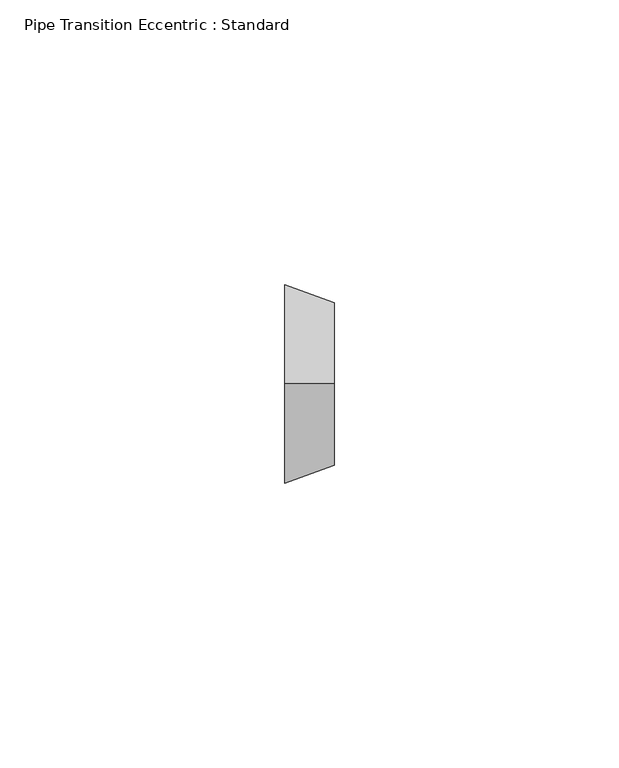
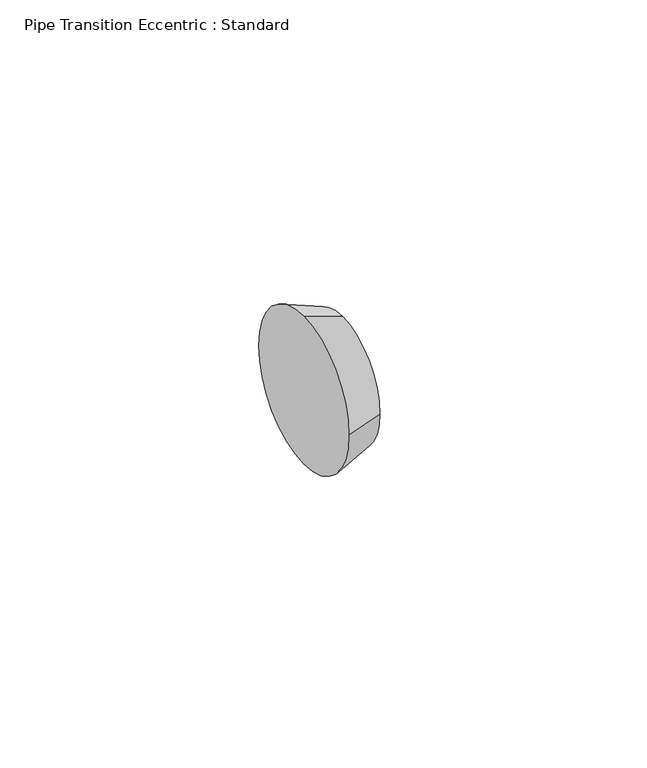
"""IFC4 building model written with IfcOpenShell, lengths in millimetres: pipe fitting geometry, Pipe Transition Eccentric : Standard."""

import ifcopenshell
import ifcopenshell.guid

model = None  # the IFC model being written
_history = None  # IfcOwnerHistory: only IFC2X3 demands one
_inside = {}  # id of a spatial element -> (the spatial element, [elements in it])
_under = {}  # id of a project, library or spatial element -> (it, [spatial elements below it])
_declared = {}  # id of a project -> (the project, [libraries it declares])
_typed = {}  # id of a type object -> (the type object, [elements of that type])
_made_of = {}  # id of a material, layer set ... -> (it, [elements and type objects made of it])


def new_model(schema):
    """Start an empty IFC model of exactly this schema.

    Asked for "IFC4X3", IfcOpenShell would pick the latest addendum, in which some entities
    have other attributes; the version numbers below select the first issue.
    IFC2X3 requires an IfcOwnerHistory on every rooted entity: one is made here for all.
    """
    global model, _history
    if schema == "IFC4X3":
        model = ifcopenshell.file(schema_version=(4, 3, 0, 0))
    else:
        model = ifcopenshell.file(schema=schema)
    _inside.clear()
    _under.clear()
    _declared.clear()
    _typed.clear()
    _made_of.clear()
    _history = None
    if model.schema == "IFC2X3":
        org = make("IfcOrganization", Name="unknown")
        user = make(
            "IfcPersonAndOrganization",
            ThePerson=make("IfcPerson", FamilyName="unknown"),
            TheOrganization=org,
        )
        app = make(
            "IfcApplication",
            ApplicationDeveloper=org,
            Version="unknown",
            ApplicationFullName="unknown",
            ApplicationIdentifier="unknown",
        )
        _history = make(
            "IfcOwnerHistory",
            OwningUser=user,
            OwningApplication=app,
            ChangeAction="ADDED",
            CreationDate=0,
        )
    return model


def make(cls, **values):
    """One entity of the class cls with the attributes given. An attribute that is None is left unset."""
    return model.create_entity(
        cls, **{name: value for name, value in values.items() if value is not None}
    )


def rooted(cls, **values):
    """An entity with a GlobalId (a new one), such as an element, a storey or a relation."""
    return make(cls, GlobalId=ifcopenshell.guid.new(), OwnerHistory=_history, **values)


def si_unit(unit_type, name, prefix=None):
    """IfcSIUnit, for example si_unit("LENGTHUNIT", "METRE", prefix="MILLI")."""
    return make("IfcSIUnit", UnitType=unit_type, Prefix=prefix, Name=name)


def assignment(units):
    """IfcUnitAssignment: the units of a project."""
    return None if units is None else make("IfcUnitAssignment", Units=units)


def point(xyz):
    """IfcCartesianPoint."""
    return None if xyz is None else make("IfcCartesianPoint", Coordinates=xyz)


def direction(xyz):
    """IfcDirection."""
    return None if xyz is None else make("IfcDirection", DirectionRatios=xyz)


def frame(location, z_axis=None, x_axis=None):
    """IfcAxis2Placement3D, a coordinate frame: its origin and axes. An axis left out is left unset."""
    return make(
        "IfcAxis2Placement3D",
        Location=point(location),
        Axis=direction(z_axis),
        RefDirection=direction(x_axis),
    )


def origin():
    """The frame at (0, 0, 0) with its axes left unset."""
    return frame((0.0, 0.0, 0.0))


def place(relative_to, where):
    """IfcLocalPlacement: puts the frame where relative to a parent placement (None: the world)."""
    return make(
        "IfcLocalPlacement", PlacementRelTo=relative_to, RelativePlacement=where
    )


def context(
    kind, dimensions, precision=None, world=None, true_north=None, identifier=None
):
    """IfcGeometricRepresentationContext, for example the 3D "Model" context."""
    return make(
        "IfcGeometricRepresentationContext",
        ContextIdentifier=identifier,
        ContextType=kind,
        CoordinateSpaceDimension=dimensions,
        Precision=precision,
        WorldCoordinateSystem=world,
        TrueNorth=true_north,
    )


def project(units=None, contexts=None):
    """IfcProject with its units and contexts."""
    return rooted(
        "IfcProject",
        Name="project",
        RepresentationContexts=contexts,
        UnitsInContext=assignment(units),
    )


def spatial(cls, under=None, at=None, **own):
    """A site, building, storey or space (cls), placed at a placement, below another one or the project."""
    s = rooted(cls, ObjectPlacement=at, **own)
    if under is not None:
        _under.setdefault(under.id(), (under, []))[1].append(s)
    return s


def polyline(points):
    """IfcPolyline through the points."""
    return make("IfcPolyline", Points=[point(p) for p in points])


def circle_curve(where, radius):
    """IfcCircle in the frame where."""
    return make("IfcCircle", Position=where, Radius=radius)


def shape(context_of_items, identifier, shape_type, items):
    """IfcShapeRepresentation: the items that make up one representation, for example the "Body"."""
    return make(
        "IfcShapeRepresentation",
        ContextOfItems=context_of_items,
        RepresentationIdentifier=identifier,
        RepresentationType=shape_type,
        Items=items,
    )


def source(mapping_origin, context_of_items, identifier, shape_type, items):
    """IfcRepresentationMap: a shape defined once, which mapped items show again and again."""
    return make(
        "IfcRepresentationMap",
        MappingOrigin=mapping_origin,
        MappedRepresentation=shape(context_of_items, identifier, shape_type, items),
    )


def transform(
    local_origin,
    x_axis=None,
    y_axis=None,
    z_axis=None,
    scale=None,
    scale2=None,
    scale3=None,
    uniform=True,
):
    """IfcCartesianTransformationOperator3D, or its non-uniform kind. x_axis, y_axis, z_axis: its Axis1, 2, 3."""
    if uniform:
        return make(
            "IfcCartesianTransformationOperator3D",
            Axis1=direction(x_axis),
            Axis2=direction(y_axis),
            LocalOrigin=point(local_origin),
            Scale=scale,
            Axis3=direction(z_axis),
        )
    return make(
        "IfcCartesianTransformationOperator3DnonUniform",
        Axis1=direction(x_axis),
        Axis2=direction(y_axis),
        LocalOrigin=point(local_origin),
        Scale=scale,
        Axis3=direction(z_axis),
        Scale2=scale2,
        Scale3=scale3,
    )


def mapped(mapping_source, mapping_target):
    """IfcMappedItem: shows the shape of a source again, moved by a transform."""
    return make(
        "IfcMappedItem", MappingSource=mapping_source, MappingTarget=mapping_target
    )


def made_of(thing, what):
    """Note that an element or type object is made of a material, layer set ...; save() writes the relation."""
    if what is not None:
        _made_of.setdefault(what.id(), (what, []))[1].append(thing)
    return thing


def element(
    cls,
    number,
    at=None,
    inside=None,
    cuts=None,
    type_object=None,
    material=None,
    context=None,
    identifier="Body",
    shape_type=None,
    held_by="IfcProductDefinitionShape",
    body=None,
    shapes=None,
    **own,
):
    """One element of the class cls, such as IfcWall. Its Tag is "e" and its number.

    at: its placement. inside: the storey or other place that contains it. cuts: it is an
    opening in that element (IfcRelVoidsElement). A single representation is given by context,
    identifier, shape_type and body (its items); several are given by shapes. held_by: the class
    of the entity that holds the representations. save() writes the other relations.
    """
    e = rooted(cls, Tag="e%d" % number, ObjectPlacement=at, **own)
    if body is not None:
        shapes = [shape(context, identifier, shape_type, body)]
    if shapes is not None:
        e.Representation = make(held_by, Representations=shapes)
    if inside is not None:
        _inside.setdefault(inside.id(), (inside, []))[1].append(e)
    if cuts is not None:
        rooted(
            "IfcRelVoidsElement", RelatingBuildingElement=cuts, RelatedOpeningElement=e
        )
    if type_object is not None:
        _typed.setdefault(type_object.id(), (type_object, []))[1].append(e)
    return made_of(e, material)


def aggregate(whole, parts):
    """IfcRelAggregates: a whole, such as a stair, and the parts it consists of."""
    return rooted("IfcRelAggregates", RelatingObject=whole, RelatedObjects=parts)


def save(model, path):
    """Write the relations noted so far, then the file.

    IfcRelAggregates (storeys below a building ...), IfcRelContainedInSpatialStructure (elements
    in a storey), IfcRelDefinesByType, IfcRelAssociatesMaterial and IfcRelDeclares: one each for
    every whole, place, type object, material and project.
    """
    for whole, parts in _under.values():
        aggregate(whole, parts)
    for where, things in _inside.values():
        rooted(
            "IfcRelContainedInSpatialStructure",
            RelatedElements=things,
            RelatingStructure=where,
        )
    for kind, things in _typed.values():
        rooted("IfcRelDefinesByType", RelatedObjects=things, RelatingType=kind)
    for what, things in _made_of.values():
        rooted("IfcRelAssociatesMaterial", RelatedObjects=things, RelatingMaterial=what)
    for by, libraries in _declared.values():
        rooted("IfcRelDeclares", RelatingContext=by, RelatedDefinitions=libraries)
    model.write(path)


def plane_surface(at):
    """IfcPlane: the flat surface through the origin of the frame at, square to its z axis."""
    return make("IfcPlane", Position=at)


def revolved_surface(curve, axis_point, axis_direction):
    """IfcSurfaceOfRevolution: the curve turned about the line through axis_point along axis_direction."""
    return make(
        "IfcSurfaceOfRevolution",
        SweptCurve=make("IfcArbitraryOpenProfileDef", ProfileType="CURVE", Curve=curve),
        AxisPosition=make("IfcAxis1Placement", Location=point(axis_point), Axis=direction(axis_direction)),
    )


def advanced_brep(points, edges, surfaces, faces):
    """IfcAdvancedBrep: a solid bounded by faces that lie on surfaces and meet in shared edges.

    An edge is (start, end): straight between two places in points (the first is 0);
    or (start, end, curve); or (start, end, curve, False) where it runs against its curve.
    A face is (place in surfaces, loops), or (place, loops, False) where it looks against
    its surface's normal. A loop lists edges by number (the first is 1), with a minus sign
    where the edge is run from its end to its start. The first loop is the outer one.
    """
    corners = [point(p) for p in points]
    vertices = [make("IfcVertexPoint", VertexGeometry=c) for c in corners]
    made = []
    for start, end, *more in edges:
        made.append(
            make(
                "IfcEdgeCurve",
                EdgeStart=vertices[start],
                EdgeEnd=vertices[end],
                EdgeGeometry=more[0] if more else make("IfcPolyline", Points=[corners[start], corners[end]]),
                SameSense=more[1] if len(more) > 1 else True,
            )
        )
    hull = []
    for where, loops, *sense in faces:
        bounds = []
        for j, loop in enumerate(loops):
            ring = [make("IfcOrientedEdge", EdgeElement=made[abs(k) - 1], Orientation=k > 0) for k in loop]
            bounds.append(
                make(
                    "IfcFaceOuterBound" if j == 0 else "IfcFaceBound",
                    Bound=make("IfcEdgeLoop", EdgeList=ring),
                    Orientation=True,
                )
            )
        hull.append(make("IfcAdvancedFace", Bounds=bounds, FaceSurface=surfaces[where], SameSense=sense[0] if sense else True))
    return make("IfcAdvancedBrep", Outer=make("IfcClosedShell", CfsFaces=hull))


def pipe_transition_eccentric_standard_b9d171b6(model_context):
    return source(origin(), model_context, "Body", "AdvancedBrep", [
        advanced_brep(
        [(8.73125, 0.0, 14.2875), (8.73125, -14.2875, 0.0), (8.73125, 0.0, -14.2875), (8.73125, 14.2875, 0.0), (0.0, 0.0, 17.4625), (0.0, 17.4625, 0.0), (0.0, 0.0, -17.4625), (0.0, -17.4625, 0.0)],
        [
            (0, 1, circle_curve(frame((8.73125, 0.0, 0.0), z_axis=(1.0, 0.0, 0.0), x_axis=(0.0, 0.0, 1.0)), 14.2875)),
            (1, 2, circle_curve(frame((8.73125, 0.0, 0.0), z_axis=(1.0, 0.0, 0.0), x_axis=(0.0, -1.0, 0.0)), 14.2875)),
            (2, 3, circle_curve(frame((8.73125, 0.0, 0.0), z_axis=(1.0, 0.0, 0.0), x_axis=(0.0, 0.0, -1.0)), 14.2875)),
            (3, 0, circle_curve(frame((8.73125, 0.0, 0.0), z_axis=(1.0, 0.0, 0.0), x_axis=(0.0, 1.0, 0.0)), 14.2875)),
            (4, 5, circle_curve(frame((0.0, 0.0, 0.0), z_axis=(-1.0, 0.0, 0.0), x_axis=(0.0, 1.0, 0.0)), 17.4625)),
            (5, 6, circle_curve(frame((0.0, 0.0, 0.0), z_axis=(-1.0, 0.0, 0.0), x_axis=(0.0, 0.0, -1.0)), 17.4625)),
            (6, 7, circle_curve(frame((0.0, 0.0, 0.0), z_axis=(-1.0, 0.0, 0.0), x_axis=(0.0, -1.0, 0.0)), 17.4625)),
            (7, 4, circle_curve(frame((0.0, 0.0, 0.0), z_axis=(-1.0, 0.0, 0.0), x_axis=(0.0, 0.0, 1.0)), 17.4625)),
            (7, 1),
            (0, 4),
            (6, 2),
            (5, 3),
        ],
        [
            plane_surface(frame((8.73125, 0.0, 0.0), z_axis=(1.0, 0.0, 0.0), x_axis=(0.0, -1.0, 0.0))),
            plane_surface(frame((0.0, 0.0, 0.0), z_axis=(-1.0, 0.0, 0.0), x_axis=(0.0, -1.0, 0.0))),
            revolved_surface(polyline([(8.731249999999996, 0.0, 14.2875), (0.0, 0.0, 17.4625)]), (48.021875, 0.0, 0.0), (-1.0, 0.0, 0.0)),
            revolved_surface(polyline([(8.731249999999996, -14.2875, 0.0), (0.0, -17.4625, 0.0)]), (48.021875, 0.0, 0.0), (-1.0, 0.0, 0.0)),
            revolved_surface(polyline([(8.731249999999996, 0.0, -14.2875), (0.0, 0.0, -17.4625)]), (48.021875, 0.0, 0.0), (-1.0, 0.0, 0.0)),
            revolved_surface(polyline([(8.731249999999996, 14.2875, 0.0), (0.0, 17.4625, 0.0)]), (48.021875, 0.0, 0.0), (-1.0, 0.0, 0.0)),
        ],
        [
            (0, [[1, 2, 3, 4]]),
            (1, [[5, 6, 7, 8]]),
            (2, [[-8, 9, -1, 10]]),
            (3, [[-7, 11, -2, -9]]),
            (4, [[-6, 12, -3, -11]]),
            (5, [[-5, -10, -4, -12]]),
        ],
    ),
        advanced_brep(
        [(8.73125, 0.0, 14.2875), (8.73125, -14.2875, 0.0), (8.73125, 0.0, -14.2875), (8.73125, 14.2875, 0.0), (0.0, 0.0, 17.4625), (0.0, 17.4625, 0.0), (0.0, 0.0, -17.4625), (0.0, -17.4625, 0.0)],
        [
            (0, 1, circle_curve(frame((8.73125, 0.0, 0.0), z_axis=(1.0, 0.0, 0.0), x_axis=(0.0, 0.0, 1.0)), 14.2875)),
            (1, 2, circle_curve(frame((8.73125, 0.0, 0.0), z_axis=(1.0, 0.0, 0.0), x_axis=(0.0, -1.0, 0.0)), 14.2875)),
            (2, 3, circle_curve(frame((8.73125, 0.0, 0.0), z_axis=(1.0, 0.0, -1.5326594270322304e-12), x_axis=(-1.5327398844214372e-12, 0.0, -1.0)), 14.2875)),
            (3, 0, circle_curve(frame((8.73125, 0.0, 0.0), z_axis=(1.0, 0.0, 0.0), x_axis=(0.0, 1.0, 0.0)), 14.2875)),
            (4, 5, circle_curve(frame((0.0, 0.0, 0.0), z_axis=(-1.0, 0.0, 0.0), x_axis=(0.0, 1.0, 0.0)), 17.4625)),
            (5, 6, circle_curve(frame((0.0, 0.0, 0.0), z_axis=(-1.0, 0.0, 1.5326594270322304e-12), x_axis=(-1.5327398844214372e-12, 0.0, -1.0)), 17.4625)),
            (6, 7, circle_curve(frame((0.0, 0.0, 0.0), z_axis=(-1.0, 0.0, 0.0), x_axis=(0.0, -1.0, 0.0)), 17.4625)),
            (7, 4, circle_curve(frame((0.0, 0.0, 0.0), z_axis=(-1.0, 0.0, 0.0), x_axis=(0.0, 0.0, 1.0)), 17.4625)),
            (7, 1),
            (0, 4),
            (6, 2),
            (5, 3),
        ],
        [
            plane_surface(frame((8.73125, 0.0, 0.0), z_axis=(1.0, 0.0, 0.0), x_axis=(0.0, -1.0, 0.0))),
            plane_surface(frame((0.0, 0.0, 0.0), z_axis=(-1.0, 0.0, 0.0), x_axis=(0.0, -1.0, 0.0))),
            revolved_surface(polyline([(8.731249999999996, 0.0, 14.2875), (0.0, 0.0, 17.4625)]), (48.021875, 0.0, 0.0), (-1.0, 0.0, 0.0)),
            revolved_surface(polyline([(8.731249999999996, -14.2875, 0.0), (0.0, -17.4625, 0.0)]), (48.021875, 0.0, 0.0), (-1.0, 0.0, 0.0)),
            revolved_surface(polyline([(8.731249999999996, 0.0, -14.287500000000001), (-2.6766144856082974e-11, 0.0, -17.46250000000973)]), (48.021875, 0.0, 0.0), (-1.0, 0.0, 1.5326594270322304e-12)),
            revolved_surface(polyline([(8.731249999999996, 14.2875, 0.0), (0.0, 17.4625, 0.0)]), (48.021875, 0.0, 0.0), (-1.0, 0.0, 0.0)),
        ],
        [
            (0, [[1, 2, 3, 4]]),
            (1, [[5, 6, 7, 8]]),
            (2, [[-8, 9, -1, 10]]),
            (3, [[-7, 11, -2, -9]]),
            (4, [[-6, 12, -3, -11]]),
            (5, [[-5, -10, -4, -12]]),
        ],
    ),
    ])


if __name__ == "__main__":
    model = new_model("IFC4")
    model_context = context("Model", 3, world=origin())
    ifc_project = project(units=[si_unit("LENGTHUNIT", "METRE", prefix="MILLI")], contexts=[model_context])
    site = spatial("IfcSite", under=ifc_project)
    building = spatial("IfcBuilding", under=site)
    placement = place(None, origin())
    pipe_transition_eccentric_standard_shape = pipe_transition_eccentric_standard_b9d171b6(model_context)
    element("IfcPipeFitting", 1, ObjectType="Pipe Transition Eccentric : Standard", at=placement, inside=building, context=model_context, shape_type="MappedRepresentation", body=[
        mapped(pipe_transition_eccentric_standard_shape, transform((0.0, 0.0, 0.0), x_axis=(1.0, 0.0, 0.0), y_axis=(0.0, 1.0, 0.0), z_axis=(0.0, 0.0, 1.0))),
    ])
    save(model, "model.ifc")
